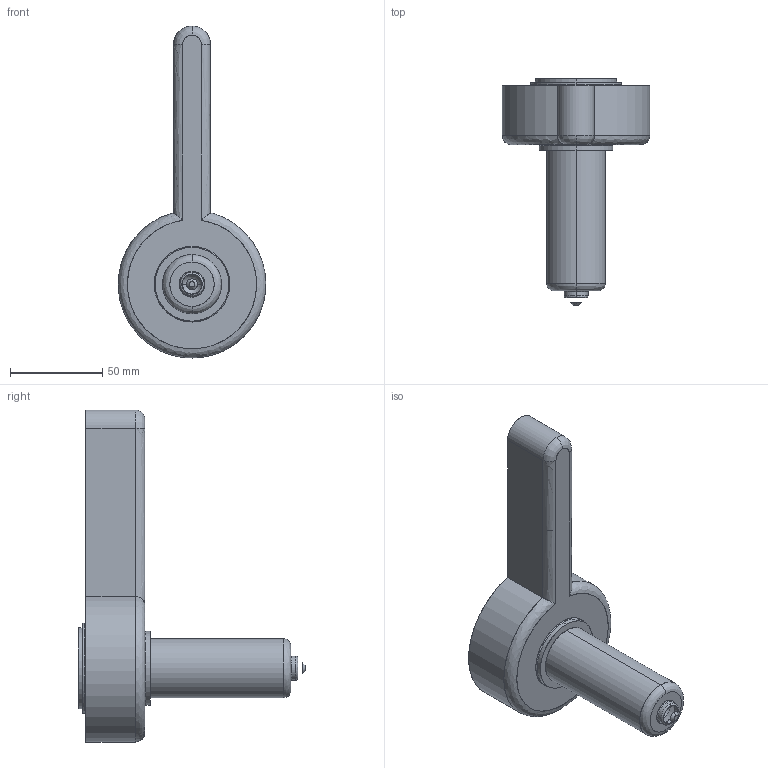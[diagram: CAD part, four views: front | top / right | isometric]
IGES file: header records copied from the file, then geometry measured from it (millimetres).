
Start section: SolidWorks IGES file using analytic representation for surfaces
Global section: file name: C:\Documents and Settings\ws-20\Desktop\TEM\Sede UGEP4502-S-A C-84 L-121 Ød-3.0.IGS; native system: SolidWorks 2012; preprocessor: SolidWorks 2012; author: ws-20; date: 120424.083948; units: millimetre
Bounding box: 79.99 x 123.21 x 180 mm (x, y, z)
Surface area: 35785.3 mm2 (no closed solid volume)
Topology: 0 solids, 0 shells, 44 faces, 952 edges, 952 vertices
Faces by surface type: revolution 27, bspline 17
